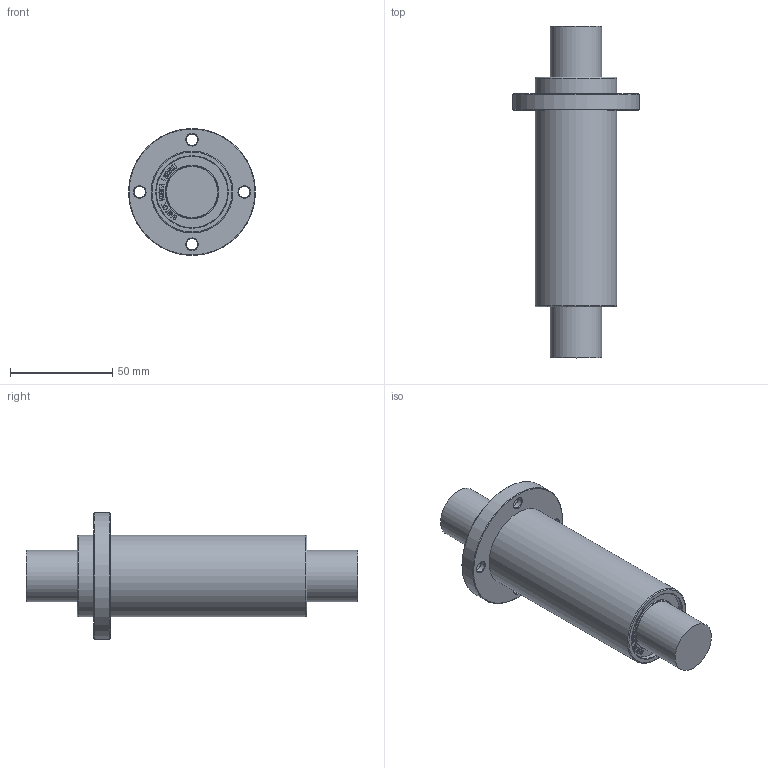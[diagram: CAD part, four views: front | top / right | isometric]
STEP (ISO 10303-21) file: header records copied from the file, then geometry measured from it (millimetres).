
FILE_DESCRIPTION(/* description */ (''),/* implementation_level */ '2;1');
FILE_NAME(/* name */ 'W:\(01) 2024년 홈페이지 CAD파일 최신화\LMEFP_L\IPT\LMEF25LUU.stp',/* time_stamp */ '2025-01-25T11:49:54+09:00',/* author */ ('서우현'),/* organization */ (''),/* preprocessor_version */ 'ST-DEVELOPER v17.2',/* originating_system */ 'Autodesk Inventor 2019',/* authorisation */ '');
FILE_SCHEMA (('AUTOMOTIVE_DESIGN { 1 0 10303 214 3 1 1 }'));
Length unit declared in the file: millimetre
Products named in the file (1): LM5
Bounding box: 62 x 162 x 62 mm (x, y, z)
Volume: 175526.5 mm3; surface area: 25901.6 mm2
Topology: 1 solids, 1 shells, 877 faces, 2481 edges, 1660 vertices
Faces by surface type: bspline 612, plane 234, cylinder 15, cone 14, torus 2
Full cylindrical faces by diameter (mm): 5.5 x4, 9.5 x4, 25 x2, 34.8 x2, 40 x2, 62 x1
Entity records: 30295 total; most frequent: CARTESIAN_POINT 11219, ORIENTED_EDGE 4962, EDGE_CURVE 2481, DIRECTION 1871, VERTEX_POINT 1660, B_SPLINE_CURVE_WITH_KNOTS 1224, LINE 1175, VECTOR 1175
